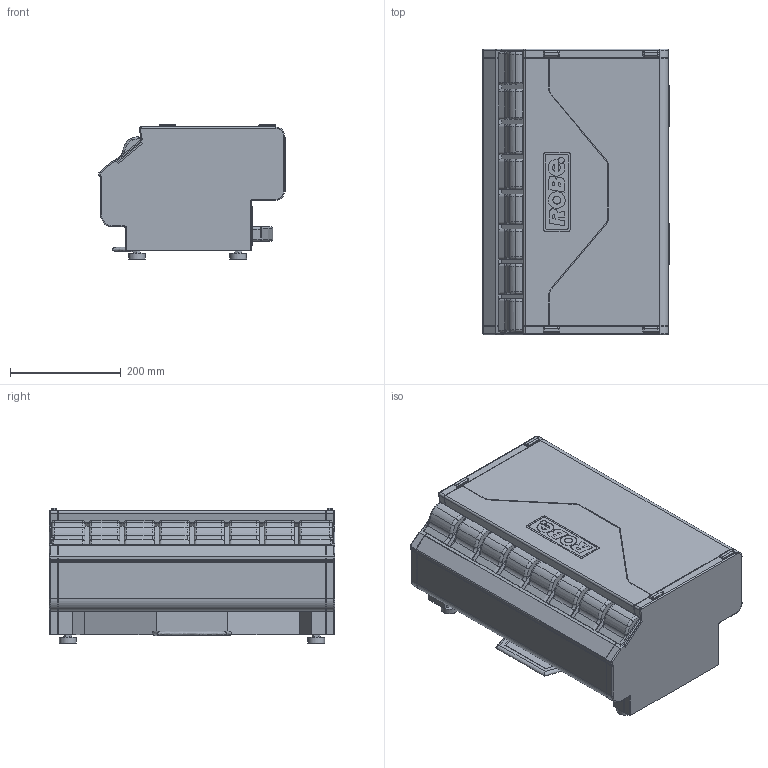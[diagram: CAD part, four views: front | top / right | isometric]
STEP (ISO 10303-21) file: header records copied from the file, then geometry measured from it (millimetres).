
FILE_DESCRIPTION(/* description */ ('Unknown'),/* implementation_level */ '2;1');
FILE_NAME(/* name */ '3D_T31 Cyc',/* time_stamp */ '2024-11-29T12:01:55+01:00',/* author */ ('Unknown'),/* organization */ ('Unknown'),/* preprocessor_version */ 'ST-DEVELOPER v19.4',/* originating_system */ 'Solid Edge',/* authorisation */ 'Unknown');
FILE_SCHEMA (('AUTOMOTIVE_DESIGN {1 0 10303 214 3 1 1}'));
Length unit declared in the file: millimetre
Products named in the file (1): T31 Cyc
Bounding box: 335.83 x 515 x 243.81 mm (x, y, z)
Volume: 31728439 mm3; surface area: 804015.3 mm2
Topology: 1 solids, 1 shells, 677 faces, 1870 edges, 1206 vertices
Faces by surface type: plane 310, cylinder 184, bspline 129, torus 50, sphere 4
Full cylindrical faces by diameter (mm): 10.524 x1, 30 x4
Entity records: 24859 total; most frequent: CARTESIAN_POINT 8666, ORIENTED_EDGE 3702, DIRECTION 2881, EDGE_CURVE 1851, VERTEX_POINT 1202, LINE 1055, VECTOR 1055, AXIS2_PLACEMENT_3D 913
